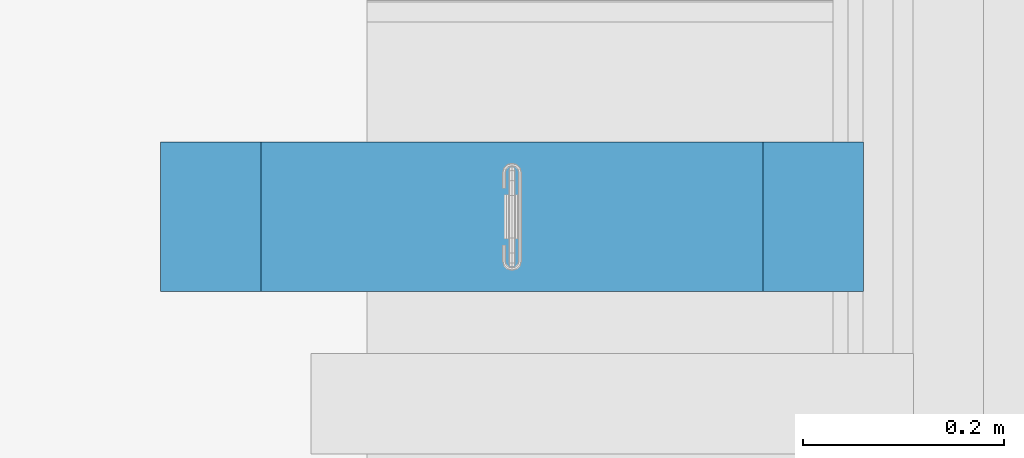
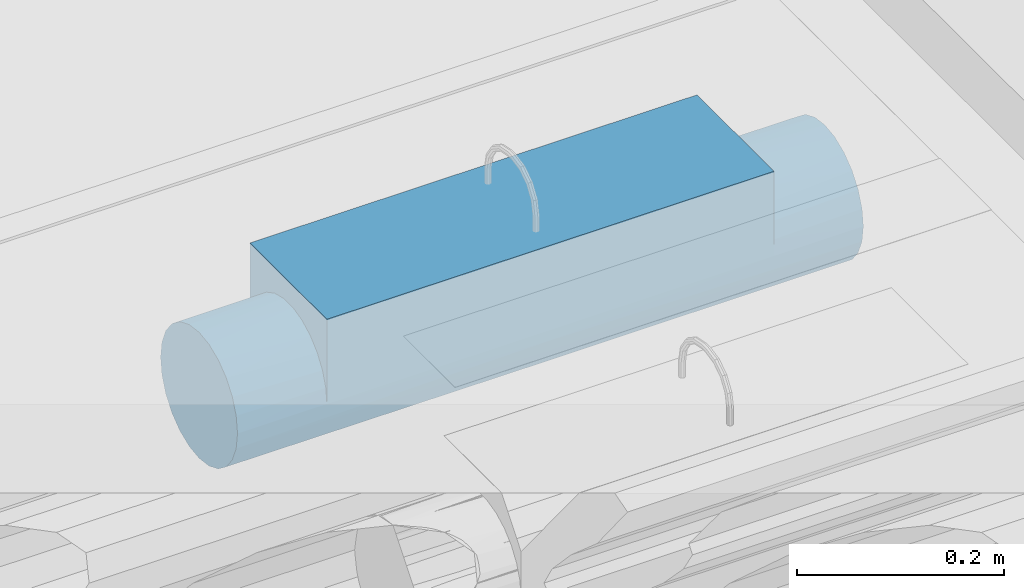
# One storey, part 184 of 230: 1 beam.
"""IFC4X3_ADD2 building model written with IfcOpenShell, lengths in millimetres."""

from ifc_helpers import new_model, si_unit, direction, origin_with_axes, place, context, subcontext, project, spatial, polygons, element, save


model = new_model("IFC4X3_ADD2")

# Units and contexts
model_context = context("Model", 3, precision=1e-05, world=origin_with_axes(), true_north=direction((0.0, 1.0)))
body_context = subcontext(model_context, "Body", "Model", "MODEL_VIEW")
ifc_project = project(units=[si_unit("LENGTHUNIT", "METRE", prefix="MILLI"), si_unit("AREAUNIT", "SQUARE_METRE"), si_unit("VOLUMEUNIT", "CUBIC_METRE"), si_unit("PLANEANGLEUNIT", "RADIAN"), si_unit("TIMEUNIT", "SECOND"), si_unit("MASSUNIT", "GRAM")], contexts=[model_context])

# Site, building, storey
site_placement = place(None, origin_with_axes())
site = spatial("IfcSite", under=ifc_project, at=site_placement, Name="Site", CompositionType="ELEMENT")
building_placement = place(site_placement, origin_with_axes())
building = spatial("IfcBuilding", under=site, at=building_placement, Name="IFC Building Story")
storey_placement = place(building_placement, origin_with_axes())
storey = spatial("IfcBuildingStorey", under=building, at=storey_placement, Name="ETAGE 00 (0)", Elevation=0.0)

# Beam
beam_placement = place(storey_placement, origin_with_axes())
element("IfcBeam", 1, at=beam_placement, inside=storey, Name="ES44", ObjectType="500*149", context=body_context, shape_type="Tessellation", body=[
    polygons([(48146.18900000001, -1105.961455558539, 4119.282009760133), (48046.18900000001, -1106.335147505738, 4117.829005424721), (48146.18900000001, -1108.499981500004, 4099.999990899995), (48146.18900000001, -1098.518874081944, 4137.249990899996), (48046.18900000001, -1099.966456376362, 4134.621865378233), (48046.18900000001, -1076.320806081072, 4161.312288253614), (48146.18900000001, -1086.679436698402, 4152.679446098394), (48146.18900000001, -1071.249981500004, 4164.518883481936), (48046.18900000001, -1060.418046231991, 4169.658700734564), (48146.18900000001, -1053.282000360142, 4171.961464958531), (48046.18900000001, -1089.764033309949, 4149.402627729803), (48046.18900000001, -1108.499981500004, 4099.999987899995), (48046.18900000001, -1042.979964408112, 4173.956801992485), (48146.18900000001, -1033.999981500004, 4174.499990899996), (48046.18900000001, -1025.019998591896, 4173.956801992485), (48146.18900000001, -1014.717962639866, 4171.961464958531), (48146.18900000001, -996.749981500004, 4164.518883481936), (48046.18900000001, -1007.581916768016, 4169.658700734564), (48146.18900000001, -969.481088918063, 4137.249990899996), (48146.18900000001, -962.0385074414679, 4119.282009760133), (48046.18900000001, -968.033506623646, 4134.621865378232), (48046.18900000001, -978.235929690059, 4149.402627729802), (48146.18900000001, -981.320526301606, 4152.679446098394), (48046.18900000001, -991.679156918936, 4161.312288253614), (48046.18900000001, -961.66481549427, 4117.82900542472), (48146.18900000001, -959.499981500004, 4099.999990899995), (48046.18900000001, -959.499981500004, 4099.999987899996), (47546.18900000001, -959.499981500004, 4199.999987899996), (47546.18900000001, -1108.499981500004, 4199.999987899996), (48046.18900000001, -1108.499981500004, 4199.999987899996), (48046.18900000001, -959.499981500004, 4199.999987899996), (47546.18900000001, -959.499981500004, 4099.999987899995), (47546.18900000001, -961.66481549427, 4117.82900542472), (47546.18900000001, -968.033506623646, 4134.621865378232), (47546.18900000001, -978.235929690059, 4149.402627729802), (47546.18900000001, -991.679156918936, 4161.312288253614), (47546.18900000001, -1007.581916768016, 4169.658700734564), (47546.18900000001, -1025.019998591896, 4173.956801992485), (47546.18900000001, -1042.979964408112, 4173.956801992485), (47546.18900000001, -1060.418046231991, 4169.658700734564), (47546.18900000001, -1076.320806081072, 4161.312288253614), (47546.18900000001, -1089.764033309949, 4149.402627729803), (47546.18900000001, -1099.966456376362, 4134.621865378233), (47546.18900000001, -1106.335147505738, 4117.829005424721), (47546.18900000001, -1108.499981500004, 4099.999987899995), (47446.18900000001, -959.499981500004, 4099.999990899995), (47446.18900000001, -962.038507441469, 4080.717972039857), (47446.18900000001, -969.481088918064, 4062.749990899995), (47446.18900000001, -981.320526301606, 4047.320535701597), (47446.18900000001, -996.749981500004, 4035.481098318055), (47446.18900000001, -1014.717962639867, 4028.03851684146), (47446.18900000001, -1033.999981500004, 4025.499990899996), (47446.18900000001, -1053.282000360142, 4028.03851684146), (47446.18900000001, -1071.249981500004, 4035.481098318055), (47446.18900000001, -1086.679436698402, 4047.320535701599), (47446.18900000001, -1098.518874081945, 4062.749990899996), (47446.18900000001, -1105.96145555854, 4080.717972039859), (47446.18900000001, -1108.499981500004, 4099.999990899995), (47446.18900000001, -1105.961455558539, 4119.282009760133), (47446.18900000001, -1098.518874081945, 4137.249990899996), (47446.18900000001, -1086.679436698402, 4152.679446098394), (47446.18900000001, -1071.249981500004, 4164.518883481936), (47446.18900000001, -1053.282000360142, 4171.961464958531), (47446.18900000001, -1033.999981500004, 4174.499990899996), (47446.18900000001, -1014.717962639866, 4171.961464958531), (47446.18900000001, -996.749981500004, 4164.518883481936), (47446.18900000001, -981.320526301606, 4152.679446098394), (47446.18900000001, -969.481088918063, 4137.249990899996), (47446.18900000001, -962.0385074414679, 4119.282009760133), (48146.18900000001, -1105.96145555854, 4080.717972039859), (48146.18900000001, -1098.518874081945, 4062.749990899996), (48146.18900000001, -1086.679436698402, 4047.320535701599), (48146.18900000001, -1071.249981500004, 4035.481098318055), (48146.18900000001, -1053.282000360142, 4028.03851684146), (48146.18900000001, -1033.999981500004, 4025.499990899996), (48146.18900000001, -1014.717962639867, 4028.03851684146), (48146.18900000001, -996.749981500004, 4035.481098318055), (48146.18900000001, -981.320526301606, 4047.320535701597), (48146.18900000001, -969.481088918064, 4062.749990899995), (48146.18900000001, -962.038507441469, 4080.717972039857), (47796.18900000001, -965.170956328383, 4071.490075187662), (47796.18900000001, -1005.49006578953, 4031.170965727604), (47796.18900000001, -988.64725503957, 4040.89516704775), (47796.18900000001, -974.895157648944, 4054.647264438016), (47796.18900000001, -1024.275780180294, 4026.137348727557), (47796.18900000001, -960.683328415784, 4086.774319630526), (47796.18900000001, -1043.724182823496, 4026.137348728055), (47796.18900000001, -1062.509897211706, 4031.170965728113), (47796.18900000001, -1107.316634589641, 4086.774319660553), (47796.18900000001, -1079.352707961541, 4040.895167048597), (47796.18900000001, -1093.10480535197, 4054.647264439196), (47796.18900000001, -1102.829006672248, 4071.490075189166)], [[[1, 2, 3]], [[4, 5, 1]], [[6, 7, 8]], [[9, 8, 10]], [[7, 11, 4]], [[1, 5, 2]], [[2, 12, 3]], [[6, 11, 7]], [[9, 6, 8]], [[10, 13, 9]], [[11, 5, 4]], [[10, 14, 13]], [[15, 14, 16]], [[17, 18, 16]], [[19, 20, 21]], [[22, 23, 19]], [[24, 17, 23]], [[25, 20, 26]], [[16, 18, 15]], [[17, 24, 18]], [[23, 22, 24]], [[19, 21, 22]], [[25, 21, 20]], [[26, 27, 25]], [[14, 15, 13]], [[28, 29, 30, 31]], [[44, 45, 29]], [[29, 43, 44]], [[29, 42, 43]], [[29, 41, 42]], [[29, 40, 41]], [[29, 39, 40]], [[29, 28, 38]], [[29, 38, 39]], [[28, 37, 38]], [[28, 36, 37]], [[28, 35, 36]], [[28, 34, 35]], [[28, 33, 34]], [[28, 32, 33]], [[30, 29, 45, 12]], [[25, 27, 31]], [[31, 21, 25]], [[31, 22, 21]], [[31, 24, 22]], [[31, 18, 24]], [[31, 15, 18]], [[31, 30, 13]], [[31, 13, 15]], [[30, 9, 13]], [[30, 6, 9]], [[30, 11, 6]], [[30, 5, 11]], [[30, 2, 5]], [[30, 12, 2]], [[28, 31, 27, 32]], [[46, 47, 48]], [[46, 48, 49]], [[46, 49, 50]], [[46, 50, 51]], [[46, 51, 52]], [[46, 52, 53]], [[46, 53, 54]], [[46, 54, 55]], [[46, 55, 56]], [[46, 56, 57]], [[46, 57, 58]], [[46, 58, 59]], [[46, 59, 60]], [[46, 60, 61]], [[46, 61, 62]], [[46, 62, 63]], [[46, 63, 64]], [[46, 64, 65]], [[46, 65, 66]], [[46, 66, 67]], [[46, 67, 68]], [[46, 68, 69]], [[70, 71, 72]], [[70, 72, 73]], [[70, 73, 74]], [[70, 74, 75]], [[70, 75, 76]], [[70, 76, 77]], [[70, 77, 78]], [[70, 78, 79]], [[70, 79, 80]], [[70, 80, 26]], [[70, 26, 20]], [[70, 20, 19]], [[70, 19, 23]], [[70, 23, 17]], [[70, 17, 16]], [[70, 16, 14]], [[70, 14, 10]], [[70, 10, 8]], [[70, 8, 7]], [[70, 7, 4]], [[70, 4, 1]], [[70, 1, 3]], [[43, 59, 44]], [[42, 60, 43]], [[40, 62, 41]], [[42, 41, 61]], [[63, 40, 39]], [[44, 58, 45]], [[44, 59, 58]], [[60, 42, 61]], [[41, 62, 61]], [[59, 43, 60]], [[40, 63, 62]], [[39, 64, 63]], [[37, 36, 66]], [[38, 37, 65]], [[35, 34, 68]], [[33, 32, 46]], [[34, 33, 69]], [[36, 35, 67]], [[37, 66, 65]], [[65, 64, 38]], [[66, 36, 67]], [[35, 68, 67]], [[69, 68, 34]], [[69, 33, 46]], [[38, 64, 39]], [[27, 26, 80]], [[79, 81, 80]], [[77, 76, 82]], [[83, 78, 77]], [[84, 79, 78]], [[85, 76, 75]], [[27, 86, 32]], [[86, 81, 47]], [[84, 83, 49]], [[47, 46, 32]], [[81, 86, 80]], [[83, 77, 82]], [[81, 84, 48]], [[48, 47, 81]], [[82, 85, 51]], [[49, 48, 84]], [[49, 83, 50]], [[85, 75, 87]], [[51, 50, 82]], [[84, 78, 83]], [[52, 51, 85]], [[83, 82, 50]], [[73, 88, 74]], [[12, 89, 70]], [[27, 80, 86]], [[72, 90, 73]], [[70, 3, 12]], [[87, 52, 85]], [[72, 71, 91]], [[70, 92, 71]], [[82, 76, 85]], [[88, 87, 74]], [[32, 86, 47]], [[89, 12, 45]], [[87, 88, 53]], [[88, 54, 53]], [[88, 90, 54]], [[54, 90, 55]], [[53, 52, 87]], [[90, 72, 91]], [[57, 56, 92]], [[55, 91, 56]], [[92, 70, 89]], [[58, 57, 45]], [[81, 79, 84]], [[90, 91, 55]], [[57, 92, 89]], [[91, 71, 92]], [[91, 92, 56]], [[87, 75, 74]], [[45, 57, 89]], [[88, 73, 90]]]),
])

save(model, "model.ifc")
